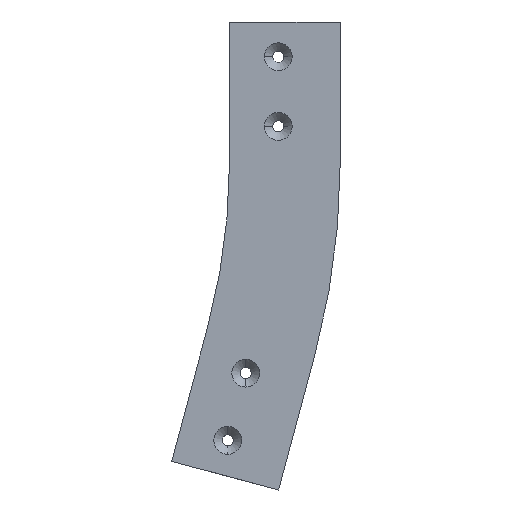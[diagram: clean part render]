
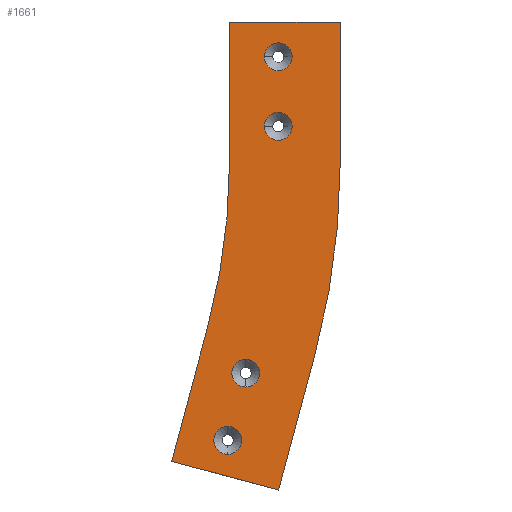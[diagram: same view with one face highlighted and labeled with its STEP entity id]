
A CAD part, left-side view. The second image highlights one B-rep face of the part: STEP entity #1661.
In plain terms, the highlighted planar face has unit normal (-1, 0, 0).
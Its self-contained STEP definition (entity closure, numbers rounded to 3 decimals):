
#49 = VERTEX_POINT ( 'NONE', #667 ) ;
#54 = VERTEX_POINT ( 'NONE', #662 ) ;
#61 = VERTEX_POINT ( 'NONE', #655 ) ;
#68 = VERTEX_POINT ( 'NONE', #648 ) ;
#81 = VERTEX_POINT ( 'NONE', #635 ) ;
#89 = VERTEX_POINT ( 'NONE', #630 ) ;
#97 = VERTEX_POINT ( 'NONE', #622 ) ;
#100 = VERTEX_POINT ( 'NONE', #619 ) ;
#160 = VERTEX_POINT ( 'NONE', #596 ) ;
#167 = VERTEX_POINT ( 'NONE', #594 ) ;
#181 = VERTEX_POINT ( 'NONE', #590 ) ;
#230 = VERTEX_POINT ( 'NONE', #585 ) ;
#232 = VERTEX_POINT ( 'NONE', #583 ) ;
#233 = VERTEX_POINT ( 'NONE', #582 ) ;
#234 = VERTEX_POINT ( 'NONE', #581 ) ;
#329 = DIRECTION ( 'NONE',  ( 0., -1., 0. ) ) ;
#330 = DIRECTION ( 'NONE',  ( -1., 0., 0. ) ) ;
#331 = CARTESIAN_POINT ( 'NONE',  ( -35., 39.8, -100. ) ) ;
#332 = PLANE ( 'NONE',  #2452 ) ;
#568 = CARTESIAN_POINT ( 'NONE',  ( -35., -5.2, -75. ) ) ;
#581 = CARTESIAN_POINT ( 'NONE',  ( -35., 28.144, -262.315 ) ) ;
#582 = CARTESIAN_POINT ( 'NONE',  ( -35., 55.481, -219.109 ) ) ;
#583 = CARTESIAN_POINT ( 'NONE',  ( -35., -5.2, -25. ) ) ;
#585 = CARTESIAN_POINT ( 'NONE',  ( -35., 14.8, -25. ) ) ;
#590 = CARTESIAN_POINT ( 'NONE',  ( -35., 81.363, -315.701 ) ) ;
#594 = CARTESIAN_POINT ( 'NONE',  ( -35., 41.085, -310.612 ) ) ;
#596 = CARTESIAN_POINT ( 'NONE',  ( -35., 28.144, -242.315 ) ) ;
#619 = CARTESIAN_POINT ( 'NONE',  ( -35., -39.8, -100. ) ) ;
#622 = CARTESIAN_POINT ( 'NONE',  ( -35., 14.8, -75. ) ) ;
#630 = CARTESIAN_POINT ( 'NONE',  ( -35., -21.407, -239.711 ) ) ;
#635 = CARTESIAN_POINT ( 'NONE',  ( -35., 39.8, 0. ) ) ;
#648 = CARTESIAN_POINT ( 'NONE',  ( -35., 39.8, -100. ) ) ;
#655 = CARTESIAN_POINT ( 'NONE',  ( -35., 4.475, -336.303 ) ) ;
#662 = CARTESIAN_POINT ( 'NONE',  ( -35., 41.085, -290.612 ) ) ;
#667 = CARTESIAN_POINT ( 'NONE',  ( -35., -39.8, 0. ) ) ;
#691 = VERTEX_POINT ( 'NONE', #568 ) ;
#1071 = DIRECTION ( 'NONE',  ( 0., -0.966, -0.259 ) ) ;
#1074 = CARTESIAN_POINT ( 'NONE',  ( -35., 81.363, -315.701 ) ) ;
#1076 = DIRECTION ( 'NONE',  ( 0., 0., 1. ) ) ;
#1077 = CARTESIAN_POINT ( 'NONE',  ( -35., 39.8, -100. ) ) ;
#1078 = DIRECTION ( 'NONE',  ( 0., -1., 0. ) ) ;
#1079 = CARTESIAN_POINT ( 'NONE',  ( -35., 39.8, 0. ) ) ;
#1082 = DIRECTION ( 'NONE',  ( 0., -1., 0. ) ) ;
#1083 = DIRECTION ( 'NONE',  ( 1., 0., 0. ) ) ;
#1084 = CARTESIAN_POINT ( 'NONE',  ( -35., 41.085, -300.612 ) ) ;
#1085 = DIRECTION ( 'NONE',  ( 0., -1., 0. ) ) ;
#1086 = DIRECTION ( 'NONE',  ( 1., 0., 0. ) ) ;
#1087 = CARTESIAN_POINT ( 'NONE',  ( -35., 28.144, -252.315 ) ) ;
#1089 = DIRECTION ( 'NONE',  ( 0., -1., 0. ) ) ;
#1090 = DIRECTION ( 'NONE',  ( 1., 0., 0. ) ) ;
#1092 = CARTESIAN_POINT ( 'NONE',  ( -35., 4.8, -75. ) ) ;
#1093 = DIRECTION ( 'NONE',  ( 0., -1., 0. ) ) ;
#1094 = DIRECTION ( 'NONE',  ( 1., 0., 0. ) ) ;
#1098 = CARTESIAN_POINT ( 'NONE',  ( -35., 4.8, -25. ) ) ;
#1104 = DIRECTION ( 'NONE',  ( 0., 0., 1. ) ) ;
#1105 = CARTESIAN_POINT ( 'NONE',  ( -35., -39.8, -100. ) ) ;
#1112 = DIRECTION ( 'NONE',  ( 0., 0., -1. ) ) ;
#1113 = DIRECTION ( 'NONE',  ( 1., 0., 0. ) ) ;
#1114 = CARTESIAN_POINT ( 'NONE',  ( -35., 500., -100. ) ) ;
#1211 = DIRECTION ( 'NONE',  ( 0., 0., -1. ) ) ;
#1212 = DIRECTION ( 'NONE',  ( 1., 0., 0. ) ) ;
#1213 = CARTESIAN_POINT ( 'NONE',  ( -35., 500., -100. ) ) ;
#1226 = DIRECTION ( 'NONE',  ( 0., 0.259, -0.966 ) ) ;
#1227 = CARTESIAN_POINT ( 'NONE',  ( -35., -21.407, -239.711 ) ) ;
#1417 = DIRECTION ( 'NONE',  ( 0., 0.259, -0.966 ) ) ;
#1419 = CARTESIAN_POINT ( 'NONE',  ( -35., 55.481, -219.109 ) ) ;
#1496 = DIRECTION ( 'NONE',  ( 0., -1., 0. ) ) ;
#1497 = DIRECTION ( 'NONE',  ( 1., 0., 0. ) ) ;
#1498 = CARTESIAN_POINT ( 'NONE',  ( -35., 4.8, -25. ) ) ;
#1512 = DIRECTION ( 'NONE',  ( 0., -1., 0. ) ) ;
#1513 = DIRECTION ( 'NONE',  ( 1., 0., 0. ) ) ;
#1514 = CARTESIAN_POINT ( 'NONE',  ( -35., 4.8, -75. ) ) ;
#1530 = DIRECTION ( 'NONE',  ( 0., -1., 0. ) ) ;
#1531 = DIRECTION ( 'NONE',  ( 1., 0., 0. ) ) ;
#1533 = CARTESIAN_POINT ( 'NONE',  ( -35., 28.144, -252.315 ) ) ;
#1548 = DIRECTION ( 'NONE',  ( 0., -1., 0. ) ) ;
#1549 = DIRECTION ( 'NONE',  ( 1., 0., 0. ) ) ;
#1550 = CARTESIAN_POINT ( 'NONE',  ( -35., 41.085, -300.612 ) ) ;
#1661 = ADVANCED_FACE ( 'NONE', ( #3002, #3001, #3000, #2999, #2998 ), #332, .T. ) ;
#1793 = VECTOR ( 'NONE', #1071, 1000. ) ;
#1794 = LINE ( 'NONE', #1074, #1793 ) ;
#1795 = VECTOR ( 'NONE', #1076, 1000. ) ;
#1798 = LINE ( 'NONE', #1077, #1795 ) ;
#1799 = VECTOR ( 'NONE', #1078, 1000. ) ;
#1800 = CIRCLE ( 'NONE', #2287, 10. ) ;
#1801 = LINE ( 'NONE', #1079, #1799 ) ;
#1802 = CIRCLE ( 'NONE', #2275, 10. ) ;
#1805 = CIRCLE ( 'NONE', #2286, 10. ) ;
#1806 = CIRCLE ( 'NONE', #2278, 10. ) ;
#1814 = VECTOR ( 'NONE', #1104, 1000. ) ;
#1815 = LINE ( 'NONE', #1105, #1814 ) ;
#1822 = CIRCLE ( 'NONE', #2276, 539.8 ) ;
#1864 = CIRCLE ( 'NONE', #2301, 460.2 ) ;
#1890 = VECTOR ( 'NONE', #1226, 1000. ) ;
#1891 = LINE ( 'NONE', #1227, #1890 ) ;
#1959 = VECTOR ( 'NONE', #1417, 1000. ) ;
#1960 = LINE ( 'NONE', #1419, #1959 ) ;
#2024 = CIRCLE ( 'NONE', #2309, 10. ) ;
#2030 = CIRCLE ( 'NONE', #2311, 10. ) ;
#2038 = CIRCLE ( 'NONE', #2316, 10. ) ;
#2048 = CIRCLE ( 'NONE', #2320, 10. ) ;
#2275 = AXIS2_PLACEMENT_3D ( 'NONE', #1087, #1086, #1085 ) ;
#2276 = AXIS2_PLACEMENT_3D ( 'NONE', #1114, #1113, #1112 ) ;
#2278 = AXIS2_PLACEMENT_3D ( 'NONE', #1098, #1094, #1093 ) ;
#2286 = AXIS2_PLACEMENT_3D ( 'NONE', #1092, #1090, #1089 ) ;
#2287 = AXIS2_PLACEMENT_3D ( 'NONE', #1084, #1083, #1082 ) ;
#2301 = AXIS2_PLACEMENT_3D ( 'NONE', #1213, #1212, #1211 ) ;
#2309 = AXIS2_PLACEMENT_3D ( 'NONE', #1498, #1497, #1496 ) ;
#2311 = AXIS2_PLACEMENT_3D ( 'NONE', #1514, #1513, #1512 ) ;
#2316 = AXIS2_PLACEMENT_3D ( 'NONE', #1533, #1531, #1530 ) ;
#2320 = AXIS2_PLACEMENT_3D ( 'NONE', #1550, #1549, #1548 ) ;
#2452 = AXIS2_PLACEMENT_3D ( 'NONE', #331, #330, #329 ) ;
#2686 = EDGE_CURVE ( 'NONE', #54, #167, #2048, .T. ) ;
#2691 = EDGE_CURVE ( 'NONE', #160, #234, #2038, .T. ) ;
#2696 = EDGE_CURVE ( 'NONE', #691, #97, #2030, .T. ) ;
#2700 = EDGE_CURVE ( 'NONE', #232, #230, #2024, .T. ) ;
#2719 = EDGE_CURVE ( 'NONE', #233, #181, #1960, .T. ) ;
#2753 = EDGE_CURVE ( 'NONE', #89, #61, #1891, .T. ) ;
#2758 = EDGE_CURVE ( 'NONE', #68, #233, #1864, .T. ) ;
#2784 = EDGE_CURVE ( 'NONE', #100, #89, #1822, .T. ) ;
#2787 = EDGE_CURVE ( 'NONE', #100, #49, #1815, .T. ) ;
#2789 = EDGE_CURVE ( 'NONE', #230, #232, #1806, .T. ) ;
#2790 = EDGE_CURVE ( 'NONE', #97, #691, #1805, .T. ) ;
#2791 = EDGE_CURVE ( 'NONE', #234, #160, #1802, .T. ) ;
#2792 = EDGE_CURVE ( 'NONE', #167, #54, #1800, .T. ) ;
#2793 = EDGE_CURVE ( 'NONE', #81, #49, #1801, .T. ) ;
#2794 = EDGE_CURVE ( 'NONE', #68, #81, #1798, .T. ) ;
#2795 = EDGE_CURVE ( 'NONE', #181, #61, #1794, .T. ) ;
#2998 = FACE_OUTER_BOUND ( 'NONE', #3820, .T. ) ;
#2999 = FACE_BOUND ( 'NONE', #3825, .T. ) ;
#3000 = FACE_BOUND ( 'NONE', #3725, .T. ) ;
#3001 = FACE_BOUND ( 'NONE', #3730, .T. ) ;
#3002 = FACE_BOUND ( 'NONE', #3727, .T. ) ;
#3476 = ORIENTED_EDGE ( 'NONE', *, *, #2700, .T. ) ;
#3477 = ORIENTED_EDGE ( 'NONE', *, *, #2789, .T. ) ;
#3478 = ORIENTED_EDGE ( 'NONE', *, *, #2696, .T. ) ;
#3479 = ORIENTED_EDGE ( 'NONE', *, *, #2790, .T. ) ;
#3480 = ORIENTED_EDGE ( 'NONE', *, *, #2691, .T. ) ;
#3481 = ORIENTED_EDGE ( 'NONE', *, *, #2791, .T. ) ;
#3482 = ORIENTED_EDGE ( 'NONE', *, *, #2686, .T. ) ;
#3483 = ORIENTED_EDGE ( 'NONE', *, *, #2792, .T. ) ;
#3484 = ORIENTED_EDGE ( 'NONE', *, *, #2793, .F. ) ;
#3485 = ORIENTED_EDGE ( 'NONE', *, *, #2794, .F. ) ;
#3486 = ORIENTED_EDGE ( 'NONE', *, *, #2758, .T. ) ;
#3487 = ORIENTED_EDGE ( 'NONE', *, *, #2719, .T. ) ;
#3488 = ORIENTED_EDGE ( 'NONE', *, *, #2795, .T. ) ;
#3489 = ORIENTED_EDGE ( 'NONE', *, *, #2753, .F. ) ;
#3490 = ORIENTED_EDGE ( 'NONE', *, *, #2784, .F. ) ;
#3491 = ORIENTED_EDGE ( 'NONE', *, *, #2787, .T. ) ;
#3725 = EDGE_LOOP ( 'NONE', ( #3480, #3481 ) ) ;
#3727 = EDGE_LOOP ( 'NONE', ( #3476, #3477 ) ) ;
#3730 = EDGE_LOOP ( 'NONE', ( #3478, #3479 ) ) ;
#3820 = EDGE_LOOP ( 'NONE', ( #3484, #3485, #3486, #3487, #3488, #3489, #3490, #3491 ) ) ;
#3825 = EDGE_LOOP ( 'NONE', ( #3482, #3483 ) ) ;
